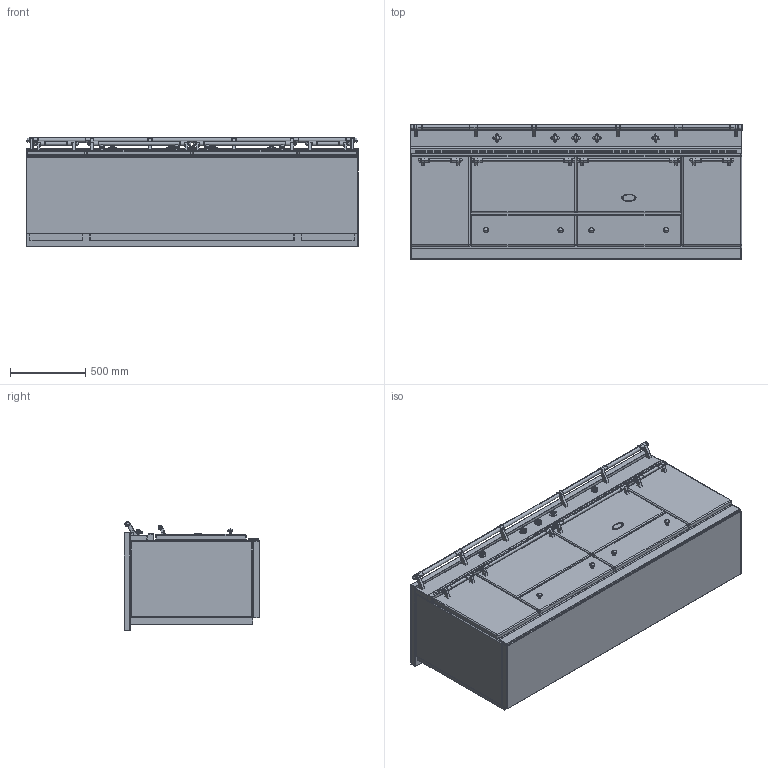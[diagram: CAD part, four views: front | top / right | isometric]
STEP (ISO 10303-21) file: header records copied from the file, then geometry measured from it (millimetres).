
FILE_DESCRIPTION((''),'2;1');
FILE_NAME('LVI2232_ASM','2014-07-29T',('r.avril'),(''),'PRO/ENGINEER BY PARAMETRIC TECHNOLOGY CORPORATION, 2014090','PRO/ENGINEER BY PARAMETRIC TECHNOLOGY CORPORATION, 2014090','');
FILE_SCHEMA(('AP203_CONFIGURATION_CONTROLLED_3D_DESIGN_OF_MECHANICAL_PARTS_AND_ASSEMBLIES_MIM_LF { 1 0 10303 403 2 1 2 }'));
Products named in the file (20): BASE_EXPORT_SULLY_LVI2232; 65650003; 65650004; 65650005; 65650006; 65650007; 6531940; 6531941; 6531943; 65049009; 65650001; 6538399; 1931942; 6518450; 6531942_ASM; BASE_EXPORT_SULLY_LVI2232_ASM; TABLE_SULLY_2200_INDUCTION_VTR; 65052012; TABLE_SULLY_2200_INDUCTION_ASM; LVI2232_ASM
Assembly tree (33 placements, depth 4):
  LVI2232_ASM
    BASE_EXPORT_SULLY_LVI2232_ASM
      BASE_EXPORT_SULLY_LVI2232
      65650003
      65650004
      65650005  x2
      65650006
      65650007
      6531940  x4
      6531941  x4
      6531943  x4
      65049009
      65650001
      6531942_ASM  x5
        6538399
        1931942
        6518450
    TABLE_SULLY_2200_INDUCTION_ASM
      TABLE_SULLY_2200_INDUCTION_VTR
      65052012
Bounding box: 2205 x 900.68 x 724 mm (x, y, z)
Volume: 1156104247.5 mm3; surface area: 16274548.3 mm2
Topology: 42 solids, 60 shells, 3983 faces, 10495 edges, 6931 vertices
Faces by surface type: plane 2027, cylinder 1220, torus 258, sphere 164, extrusion 142, cone 82, bspline 70, revolution 20
Entity records: 96324 total; most frequent: CARTESIAN_POINT 18226, DIRECTION 13571, ORIENTED_EDGE 11518, EDGE_CURVE 5775, AXIS2_PLACEMENT_3D 4632, VECTOR 4239, LINE 4209, VERTEX_POINT 3684
